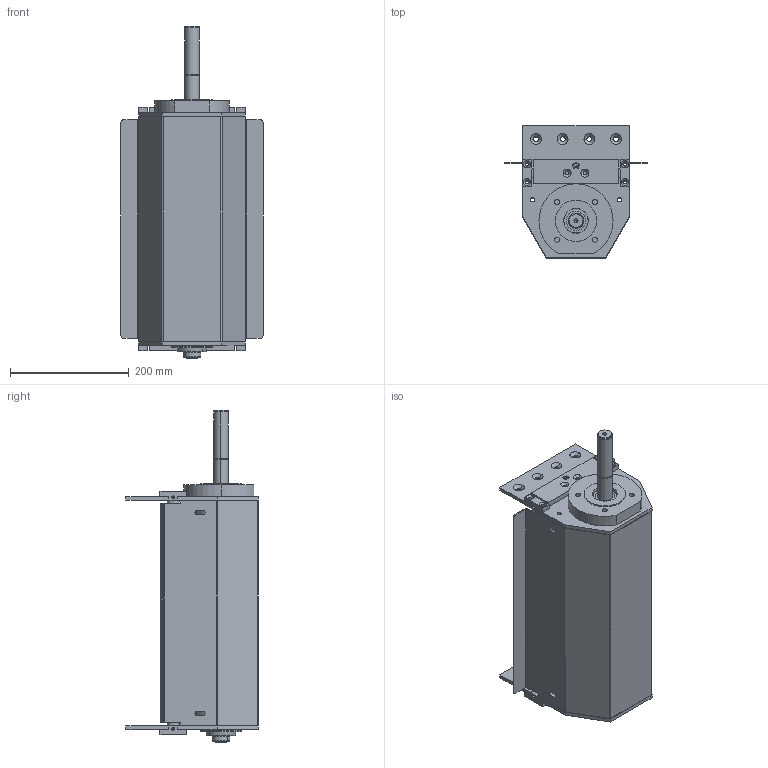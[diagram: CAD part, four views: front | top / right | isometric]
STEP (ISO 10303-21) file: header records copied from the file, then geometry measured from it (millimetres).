
FILE_DESCRIPTION (( 'STEP AP203' ), '1' );
FILE_NAME ('084.050.KCS.49.350.STEP', '2019-07-29T13:52:43', ( '' ), ( '' ), 'SwSTEP 2.0', 'SolidWorks 2018', '' );
FILE_SCHEMA (( 'CONFIG_CONTROL_DESIGN' ));
Length unit declared in the file: millimetre
Products named in the file (15): 084.817.073; 084.050.KCS.49.350; 084.802.004-1; 084.802.021; 084.814.003-1; 084.802.020; 084.810.003; 084.812.003; CUSCINETTI A SFERE_6004-2RS; 084.817.074; 084.802.003; 084.802.011; 084.817.075; 084.802.012_Solo centrale; 084.817.072_Default<A macchina>
Assembly tree (25 placements, depth 2):
  084.050.KCS.49.350
    084.817.072_Default<A macchina>
    084.817.075
    084.802.011
    084.802.021
    084.814.003-1
    084.810.003  x2
    084.802.004-1  x4
    084.802.020
    084.812.003
    084.802.003  x2
    084.817.073  x2
    084.817.074  x2
    CUSCINETTI A SFERE_6004-2RS  x4
    084.802.012_Solo centrale  x2
Bounding box: 240 x 223 x 560 mm (x, y, z)
Volume: 2783400.6 mm3; surface area: 1324260.4 mm2
Topology: 27 solids, 27 shells, 984 faces, 2439 edges, 1563 vertices
Faces by surface type: plane 419, cylinder 347, cone 140, torus 68, sphere 10
Entity records: 20701 total; most frequent: DIRECTION 3482, CARTESIAN_POINT 3289, ORIENTED_EDGE 3050, EDGE_CURVE 1525, AXIS2_PLACEMENT_3D 1323, VERTEX_POINT 982, LINE 836, VECTOR 836
